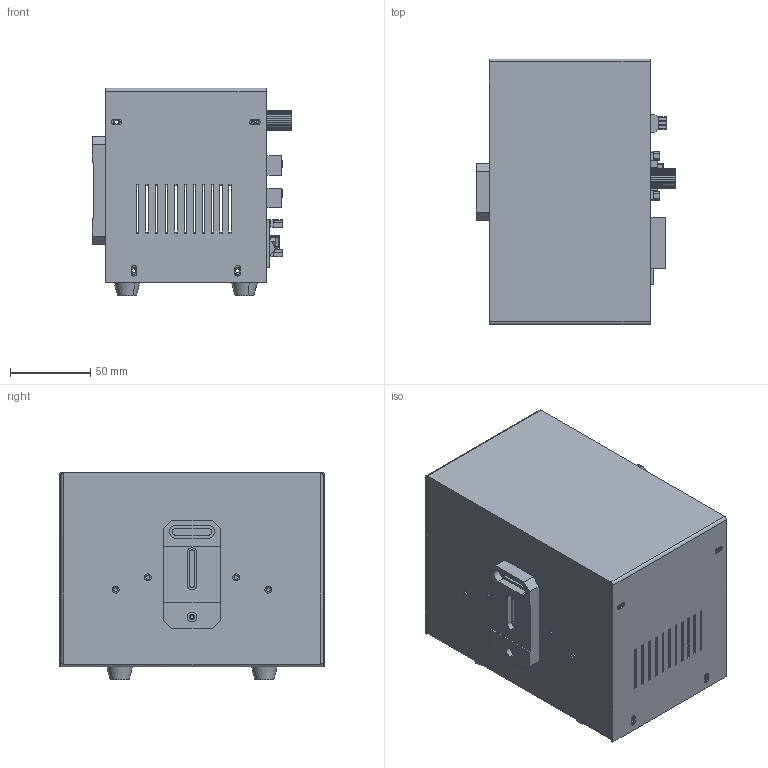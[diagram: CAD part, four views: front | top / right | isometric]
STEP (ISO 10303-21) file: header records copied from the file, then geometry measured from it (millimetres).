
FILE_DESCRIPTION (( 'STEP AP203' ), '1' );
FILE_NAME ('錨璃19^CK-HDT24-260W-4DT-V2蚾饜芞7.21.STEP', '2025-07-21T09:03:48', ( '' ), ( '' ), 'SwSTEP 2.0', 'SolidWorks 2022', '' );
FILE_SCHEMA (( 'CONFIG_CONTROL_DESIGN' ));
Products named in the file (1): 零件19^CK-HDT24-260W-4DT-V2装配图7.21
Bounding box: 124.2 x 165 x 129 mm (x, y, z)
Volume: 177717.2 mm3; surface area: 235633.1 mm2
Topology: 1 solids, 1 shells, 3936 faces, 10796 edges, 7158 vertices
Faces by surface type: plane 2537, bspline 994, cylinder 387, cone 12, torus 6
Entity records: 168003 total; most frequent: CARTESIAN_POINT 73687, ORIENTED_EDGE 21584, DIRECTION 15538, EDGE_CURVE 10792, LINE 7948, VECTOR 7948, VERTEX_POINT 7158, EDGE_LOOP 4378
